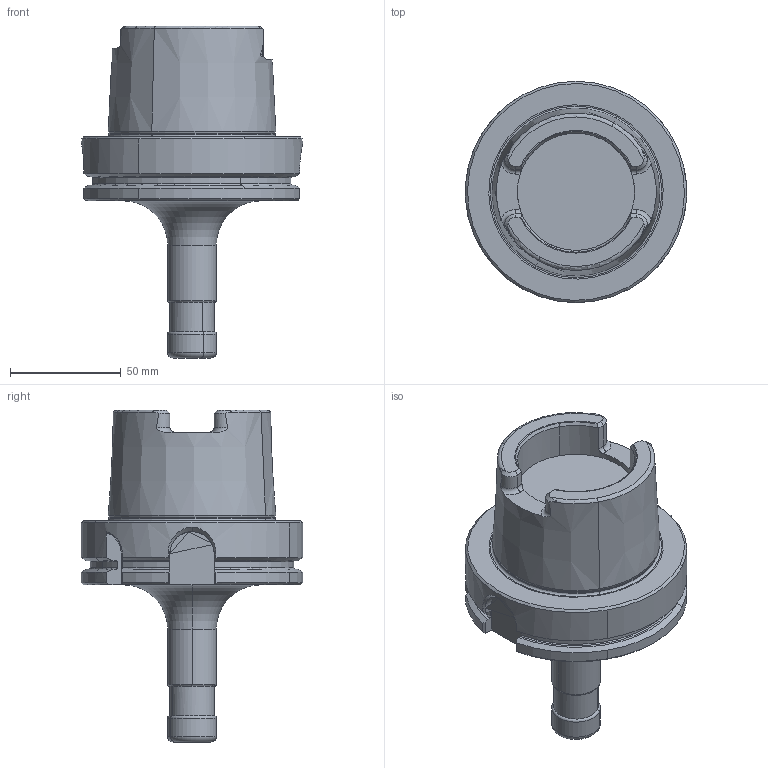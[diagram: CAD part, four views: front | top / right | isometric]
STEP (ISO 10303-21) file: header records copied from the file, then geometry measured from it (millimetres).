
FILE_DESCRIPTION(('CATIA V5 STEP','CAx-IF Rec.Pracs.--- Model Styling and Organization---1.2---2011-12-15'),'2;1');
FILE_NAME('\\nas01\drv1\utils\eitdev\rte\eit\transmagicconvert\db\out\4561013-I.stp','2014-03-11T05:48:58+00:00',('none'),('none'),'CATIA Version 5 Release 21 SP 5 (IN-10)','CATIA V5 STEP AP214','none');
FILE_SCHEMA(('AUTOMOTIVE_DESIGN { 1 0 10303 214 1 1 1 1 }'));
Length unit declared in the file: millimetre
Products named in the file (1): 60903217_0 Assembly HSK A 100 ER16X100 M
Bounding box: 100 x 100 x 150 mm (x, y, z)
Volume: 419274.3 mm3; surface area: 43435.9 mm2
Topology: 1 solids, 1 shells, 157 faces, 406 edges, 254 vertices
Faces by surface type: plane 48, cylinder 38, torus 35, cone 32, bspline 2, extrusion 2
Entity records: 4997 total; most frequent: CARTESIAN_POINT 1618, ORIENTED_EDGE 812, DIRECTION 495, EDGE_CURVE 406, AXIS2_PLACEMENT_3D 264, VERTEX_POINT 254, CIRCLE 168, EDGE_LOOP 160
